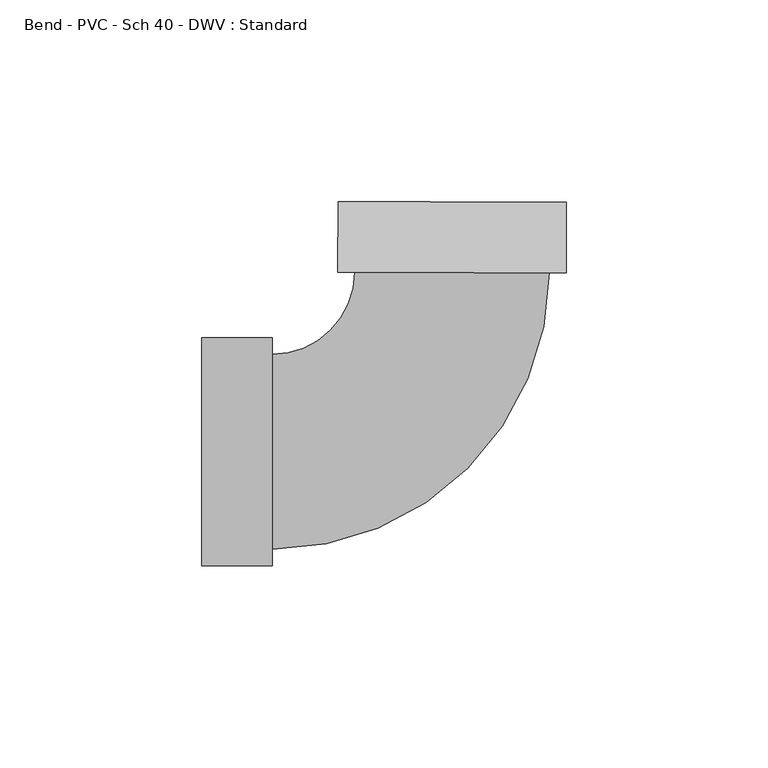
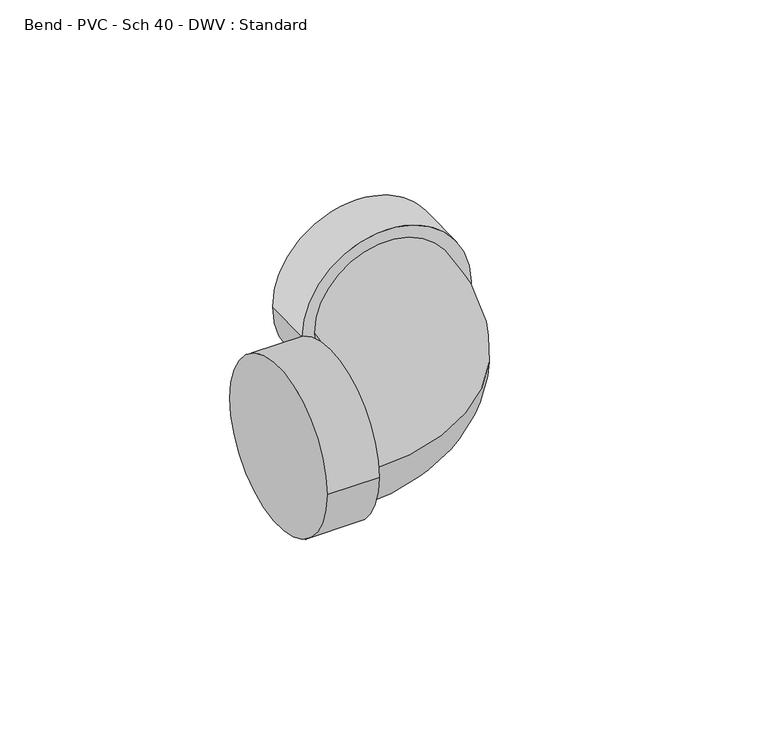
"""IFC4 building model written with IfcOpenShell, lengths in millimetres: pipe fitting geometry, Bend - PVC - Sch 40 - DWV : Standard."""

from ifc_helpers import new_model, si_unit, point, frame, origin, place, context, project, spatial, circle_curve, ellipse_curve, trimmed, source, transform, mapped, element, save
from ifc_brep_helpers import plane_surface, cylinder_surface, revolved_surface, advanced_brep


def bend_pvc_sch_40_dwv_standard_efe5b847(model_context):
    return source(origin(), model_context, "Body", "AdvancedBrep", [
        advanced_brep(
        [(-61.8998, -28.2829, 0.0), (-61.8998, 28.2829, 0.0), (-44.45, -28.2829, 0.0), (-44.45, 28.2829, 0.0), (-44.45, -24.13, 0.0), (-44.45, 24.13, 0.0), (-23.9924437, 44.5243983, 0.0), (24.2673256, 44.3751767, 0.0), (28.4202058, 44.3623358, 0.0), (-28.1453238, 44.5372392, 0.0), (28.4741612, 61.8120524, 0.0), (-28.0913684, 61.9869558, 0.0)],
        [
            (0, 1, circle_curve(frame((-61.8998, 0.0, 0.0), z_axis=(-1.0, 0.0, 0.0), x_axis=(0.0, 1.0, 0.0)), 28.2829)),
            (1, 0, circle_curve(frame((-61.8998, 0.0, 0.0), z_axis=(-1.0, 0.0, 0.0), x_axis=(0.0, 1.0, 0.0)), 28.2829)),
            (2, 3, circle_curve(frame((-44.45, 0.0, 0.0), z_axis=(1.0, 0.0, 0.0), x_axis=(0.0, 1.0, 0.0)), 28.2829)),
            (3, 2, circle_curve(frame((-44.45, 0.0, 0.0), z_axis=(1.0, 0.0, 0.0), x_axis=(0.0, 1.0, 0.0)), 28.2829)),
            (4, 5, circle_curve(frame((-44.45, 0.0, 0.0), z_axis=(-1.0, 0.0, 0.0), x_axis=(0.0, 1.0, 0.0)), 24.13)),
            (5, 4, circle_curve(frame((-44.45, 0.0, 0.0), z_axis=(-1.0, 0.0, 0.0), x_axis=(0.0, 1.0, 0.0)), 24.13)),
            (0, 2),
            (3, 1),
            (6, 5, circle_curve(frame((-44.45, 44.5876541, 0.0), z_axis=(0.0, 0.0, -1.0), x_axis=(0.0, -1.0, 0.0)), 20.4576541)),
            (4, 7, circle_curve(frame((-44.45, 44.5876541, 0.0), z_axis=(0.0, 0.0, 1.0), x_axis=(0.0, -1.0, 0.0)), 68.7176541)),
            (7, 6, circle_curve(frame((0.137441, 44.4497875, 0.0), z_axis=(-0.0030920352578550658, -0.9999952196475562, 0.0), x_axis=(-0.9999952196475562, 0.0030920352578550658, 0.0)), 24.13)),
            (6, 7, circle_curve(frame((0.137441, 44.4497875, 0.0), z_axis=(-0.0030920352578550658, -0.9999952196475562, 0.0), x_axis=(-0.9999952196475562, 0.0030920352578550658, 0.0)), 24.13)),
            (8, 9, circle_curve(frame((0.137441, 44.4497875, 0.0), z_axis=(-0.0030920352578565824, -0.9999952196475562, 0.0), x_axis=(-0.9999952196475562, 0.0030920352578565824, 0.0)), 28.2829)),
            (9, 8, circle_curve(frame((0.137441, 44.4497875, 0.0), z_axis=(-0.0030920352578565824, -0.9999952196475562, 0.0), x_axis=(-0.9999952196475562, 0.0030920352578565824, 0.0)), 28.2829)),
            (10, 11, circle_curve(frame((0.1913964, 61.8995041, 0.0), z_axis=(0.0030920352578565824, 0.9999952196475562, 0.0), x_axis=(-0.9999952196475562, 0.0030920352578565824, 0.0)), 28.2829)),
            (11, 10, circle_curve(frame((0.1913964, 61.8995041, 0.0), z_axis=(0.0030920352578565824, 0.9999952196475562, 0.0), x_axis=(-0.9999952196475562, 0.0030920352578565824, 0.0)), 28.2829)),
            (8, 10),
            (11, 9),
        ],
        [
            plane_surface(frame((-61.8998, 0.0, 0.0), z_axis=(-1.0, 0.0, 0.0), x_axis=(0.0, 0.0, 1.0))),
            plane_surface(frame((-44.45, 0.0, 0.0), z_axis=(1.0, 0.0, 0.0), x_axis=(0.0, 0.0, 1.0))),
            cylinder_surface(frame((-61.8998, 0.0, 0.0), z_axis=(-1.0, 0.0, 0.0), x_axis=(0.0, 1.0, 0.0)), 28.2829),
            revolved_surface(trimmed(ellipse_curve(frame((-44.45, 0.0, 0.0), z_axis=(-1.0, 0.0, 0.0), x_axis=(0.0, 1.0, 0.0)), 24.13, 24.13), [point((-44.45, -24.13, 0.0))], [point((-44.45, 24.13, 0.0))], True, "CARTESIAN"), (-44.45, 44.5876541, 0.0), (0.0, 0.0, 1.0)),
            revolved_surface(trimmed(ellipse_curve(frame((-44.45, 0.0, 0.0), z_axis=(-1.0, 0.0, 0.0), x_axis=(0.0, 1.0, 0.0)), 24.13, 24.13), [point((-44.45, 24.13, 0.0))], [point((-44.45, -24.13, 0.0))], True, "CARTESIAN"), (-44.45, 44.5876541, 0.0), (0.0, 0.0, 1.0)),
            plane_surface(frame((0.137441, 44.4497875, 0.0), z_axis=(-0.0030920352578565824, -0.9999952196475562, 0.0), x_axis=(0.0, 0.0, 1.0))),
            plane_surface(frame((0.1913964, 61.8995041, 0.0), z_axis=(0.0030920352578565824, 0.9999952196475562, 0.0), x_axis=(0.0, 0.0, 1.0))),
            cylinder_surface(frame((0.137441, 44.4497875, 0.0), z_axis=(-0.0030920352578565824, -0.9999952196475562, 0.0), x_axis=(-0.9999952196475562, 0.0030920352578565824, 0.0)), 28.2829),
        ],
        [
            (0, [[1, 2]]),
            (1, [[3, 4], [5, 6]]),
            (2, [[-1, 7, -4, 8]]),
            (2, [[-2, -8, -3, -7]]),
            (3, [[9, -5, 10, 11]]),
            (4, [[-9, 12, -10, -6]]),
            (5, [[13, 14], [-11, -12]]),
            (6, [[15, 16]]),
            (7, [[-13, 17, -16, 18]]),
            (7, [[-14, -18, -15, -17]]),
        ],
    ),
    ])


if __name__ == "__main__":
    model = new_model("IFC4")
    model_context = context("Model", 3, world=origin())
    ifc_project = project(units=[si_unit("LENGTHUNIT", "METRE", prefix="MILLI")], contexts=[model_context])
    site = spatial("IfcSite", under=ifc_project)
    building = spatial("IfcBuilding", under=site)
    placement = place(None, origin())
    bend_pvc_sch_40_dwv_standard_shape = bend_pvc_sch_40_dwv_standard_efe5b847(model_context)
    element("IfcPipeFitting", 1, ObjectType="Bend - PVC - Sch 40 - DWV : Standard", at=placement, inside=building, context=model_context, shape_type="MappedRepresentation", body=[
        mapped(bend_pvc_sch_40_dwv_standard_shape, transform((0.0, 0.0, 0.0), x_axis=(1.0, 0.0, 0.0), y_axis=(0.0, 1.0, 0.0), z_axis=(0.0, 0.0, 1.0))),
    ])
    save(model, "model.ifc")
